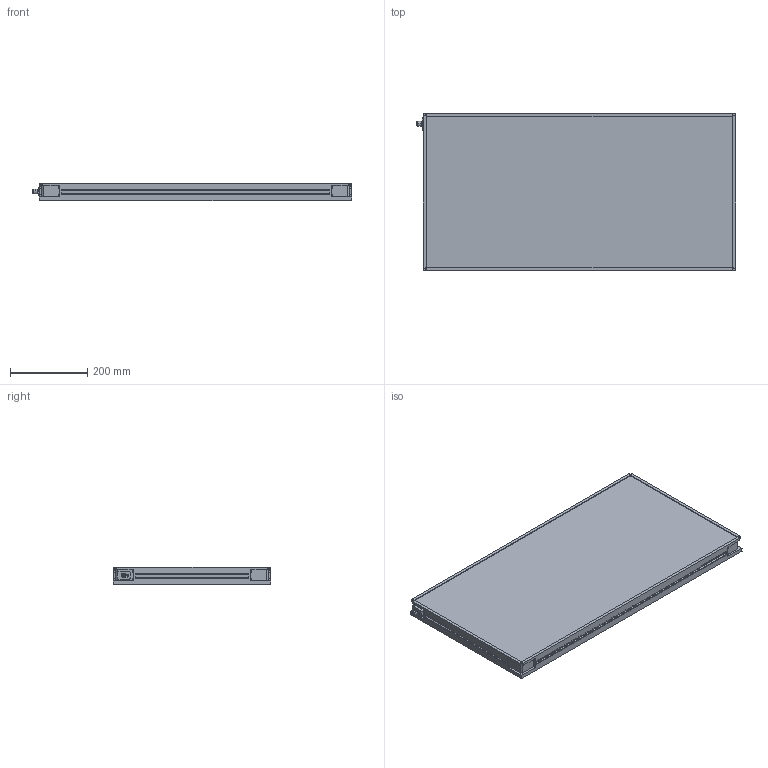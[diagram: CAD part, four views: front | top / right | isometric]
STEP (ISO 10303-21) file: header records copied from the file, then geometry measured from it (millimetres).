
FILE_DESCRIPTION (( 'STEP AP214' ), '1' );
FILE_NAME ('MBACK-xxxx-xxx-M1_CLIENT400x800.STEP', '2022-03-31T16:11:57', ( '' ), ( '' ), 'SwSTEP 2.0', 'SolidWorks 2020', '' );
FILE_SCHEMA (( 'AUTOMOTIVE_DESIGN' ));
Length unit declared in the file: millimetre
Products named in the file (1): MBACK-xxxx-xxx-M1_CLIENT400x800
Bounding box: 825.9 x 408 x 45.5 mm (x, y, z)
Volume: 13682795.6 mm3; surface area: 820699.4 mm2
Topology: 1 solids, 1 shells, 442 faces, 1144 edges, 760 vertices
Faces by surface type: plane 249, cylinder 105, bspline 80, cone 8
Entity records: 17236 total; most frequent: CARTESIAN_POINT 6699, ORIENTED_EDGE 2288, DIRECTION 1936, EDGE_CURVE 1144, VERTEX_POINT 760, VECTOR 758, LINE 758, AXIS2_PLACEMENT_3D 589
